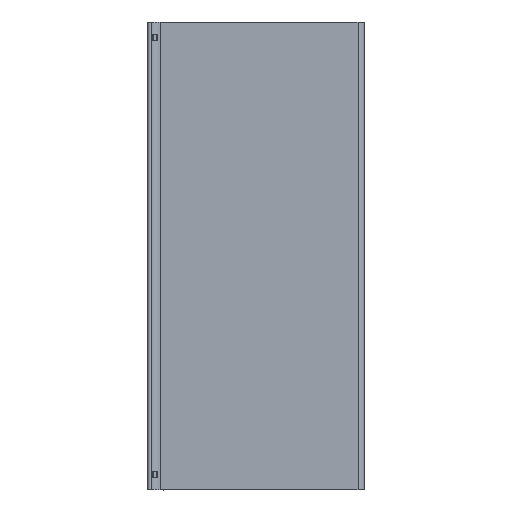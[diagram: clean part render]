
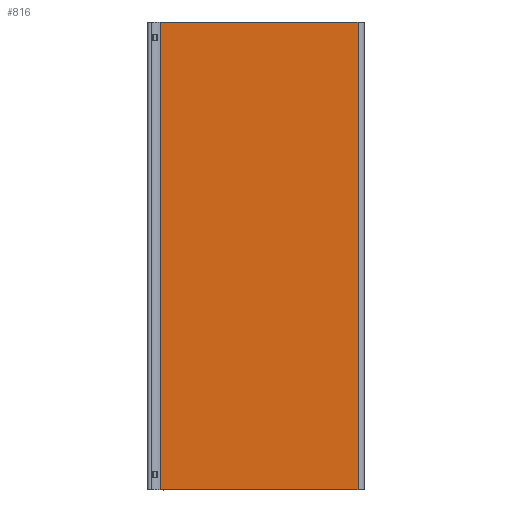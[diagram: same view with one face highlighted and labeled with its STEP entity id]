
A CAD part, top view. The second image highlights one B-rep face of the part: STEP entity #816.
In plain terms, the highlighted planar face has unit normal (0, 0, 1).
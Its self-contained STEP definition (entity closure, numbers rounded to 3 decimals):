
#37=PLANE('',#866);
#60=LINE('',#1157,#109);
#61=LINE('',#1159,#110);
#62=LINE('',#1161,#111);
#63=LINE('',#1163,#112);
#109=VECTOR('',#954,1000.);
#110=VECTOR('',#957,1000.);
#111=VECTOR('',#958,1000.);
#112=VECTOR('',#959,1000.);
#165=ORIENTED_EDGE('',*,*,#339,.F.);
#166=ORIENTED_EDGE('',*,*,#338,.F.);
#167=ORIENTED_EDGE('',*,*,#340,.T.);
#168=ORIENTED_EDGE('',*,*,#341,.T.);
#338=EDGE_CURVE('',#425,#423,#60,.T.);
#339=EDGE_CURVE('',#423,#426,#61,.T.);
#340=EDGE_CURVE('',#425,#427,#62,.T.);
#341=EDGE_CURVE('',#427,#426,#63,.T.);
#423=VERTEX_POINT('',#1152);
#425=VERTEX_POINT('',#1156);
#426=VERTEX_POINT('',#1160);
#427=VERTEX_POINT('',#1162);
#513=EDGE_LOOP('',(#165,#166,#167,#168));
#552=FACE_BOUND('',#513,.T.);
#816=ADVANCED_FACE('',(#552),#37,.T.);
#866=AXIS2_PLACEMENT_3D('',#1158,#955,#956);
#954=DIRECTION('',(0.,1.,0.));
#955=DIRECTION('',(0.,0.,1.));
#956=DIRECTION('',(0.,-1.,0.));
#957=DIRECTION('',(1.,0.,0.));
#958=DIRECTION('',(1.,0.,0.));
#959=DIRECTION('',(0.,1.,0.));
#1152=CARTESIAN_POINT('',(-61.561,150.,28.835));
#1156=CARTESIAN_POINT('',(-61.561,-150.,28.835));
#1157=CARTESIAN_POINT('',(-61.561,-150.,28.835));
#1158=CARTESIAN_POINT('',(-61.561,-150.,28.835));
#1159=CARTESIAN_POINT('',(-61.561,150.,28.835));
#1160=CARTESIAN_POINT('',(65.407,150.,28.835));
#1161=CARTESIAN_POINT('',(-61.561,-150.,28.835));
#1162=CARTESIAN_POINT('',(65.407,-150.,28.835));
#1163=CARTESIAN_POINT('',(65.407,-150.,28.835));
